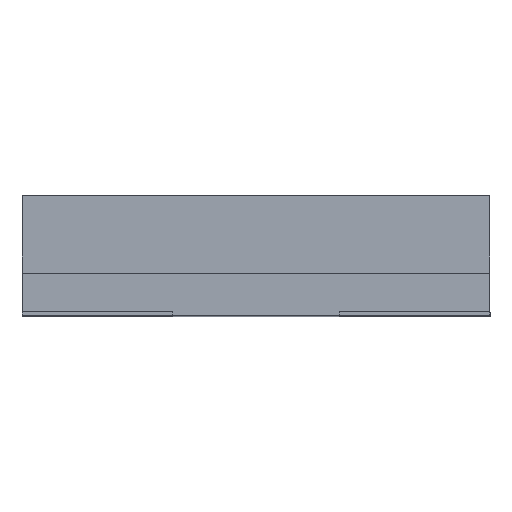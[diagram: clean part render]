
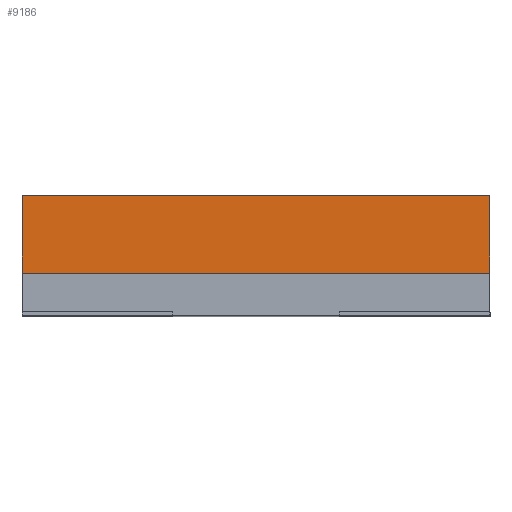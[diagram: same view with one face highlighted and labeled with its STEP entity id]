
A CAD part, top view. The second image highlights one B-rep face of the part: STEP entity #9186.
In plain terms, the highlighted planar face has unit normal (0, 0, 1).
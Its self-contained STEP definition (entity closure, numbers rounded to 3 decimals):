
#323 = PLANE ( 'NONE',  #957 ) ;
#627 = CARTESIAN_POINT ( 'NONE',  ( -1.95, 1., 3.75 ) ) ;
#794 = VECTOR ( 'NONE', #4162, 1000. ) ;
#957 = AXIS2_PLACEMENT_3D ( 'NONE', #627, #6142, #2211 ) ;
#1741 = EDGE_CURVE ( 'NONE', #2358, #6049, #7990, .T. ) ;
#1876 = VECTOR ( 'NONE', #1938, 1000. ) ;
#1938 = DIRECTION ( 'NONE',  ( 1., 0., 0. ) ) ;
#1992 = LINE ( 'NONE', #4711, #9224 ) ;
#2211 = DIRECTION ( 'NONE',  ( -1., 0., 0. ) ) ;
#2358 = VERTEX_POINT ( 'NONE', #7362 ) ;
#2396 = DIRECTION ( 'NONE',  ( -1., 0., 0. ) ) ;
#2593 = EDGE_CURVE ( 'NONE', #10564, #2358, #5474, .T. ) ;
#2642 = EDGE_CURVE ( 'NONE', #10564, #7385, #1992, .T. ) ;
#2894 = FACE_OUTER_BOUND ( 'NONE', #10827, .T. ) ;
#3286 = CARTESIAN_POINT ( 'NONE',  ( 1.95, 1., 3.75 ) ) ;
#3867 = DIRECTION ( 'NONE',  ( 0., -1., 0. ) ) ;
#4162 = DIRECTION ( 'NONE',  ( 0., -1., 0. ) ) ;
#4361 = CARTESIAN_POINT ( 'NONE',  ( 1.95, 0.35, 3.75 ) ) ;
#4579 = CARTESIAN_POINT ( 'NONE',  ( -1.95, 1., 3.75 ) ) ;
#4711 = CARTESIAN_POINT ( 'NONE',  ( -1.95, 1., 3.75 ) ) ;
#5137 = ORIENTED_EDGE ( 'NONE', *, *, #1741, .F. ) ;
#5474 = LINE ( 'NONE', #10331, #1876 ) ;
#6049 = VERTEX_POINT ( 'NONE', #4361 ) ;
#6090 = ORIENTED_EDGE ( 'NONE', *, *, #10036, .F. ) ;
#6142 = DIRECTION ( 'NONE',  ( 0., 0., -1. ) ) ;
#6645 = LINE ( 'NONE', #8424, #10152 ) ;
#7203 = ORIENTED_EDGE ( 'NONE', *, *, #2642, .T. ) ;
#7362 = CARTESIAN_POINT ( 'NONE',  ( 1.95, 1., 3.75 ) ) ;
#7385 = VERTEX_POINT ( 'NONE', #9338 ) ;
#7990 = LINE ( 'NONE', #3286, #794 ) ;
#8424 = CARTESIAN_POINT ( 'NONE',  ( -1.95, 0.35, 3.75 ) ) ;
#9186 = ADVANCED_FACE ( 'NONE', ( #2894 ), #323, .F. ) ;
#9224 = VECTOR ( 'NONE', #3867, 1000. ) ;
#9338 = CARTESIAN_POINT ( 'NONE',  ( -1.95, 0.35, 3.75 ) ) ;
#10036 = EDGE_CURVE ( 'NONE', #6049, #7385, #6645, .T. ) ;
#10152 = VECTOR ( 'NONE', #2396, 1000. ) ;
#10331 = CARTESIAN_POINT ( 'NONE',  ( -1.95, 1., 3.75 ) ) ;
#10564 = VERTEX_POINT ( 'NONE', #4579 ) ;
#10600 = ORIENTED_EDGE ( 'NONE', *, *, #2593, .F. ) ;
#10827 = EDGE_LOOP ( 'NONE', ( #6090, #5137, #10600, #7203 ) ) ;
